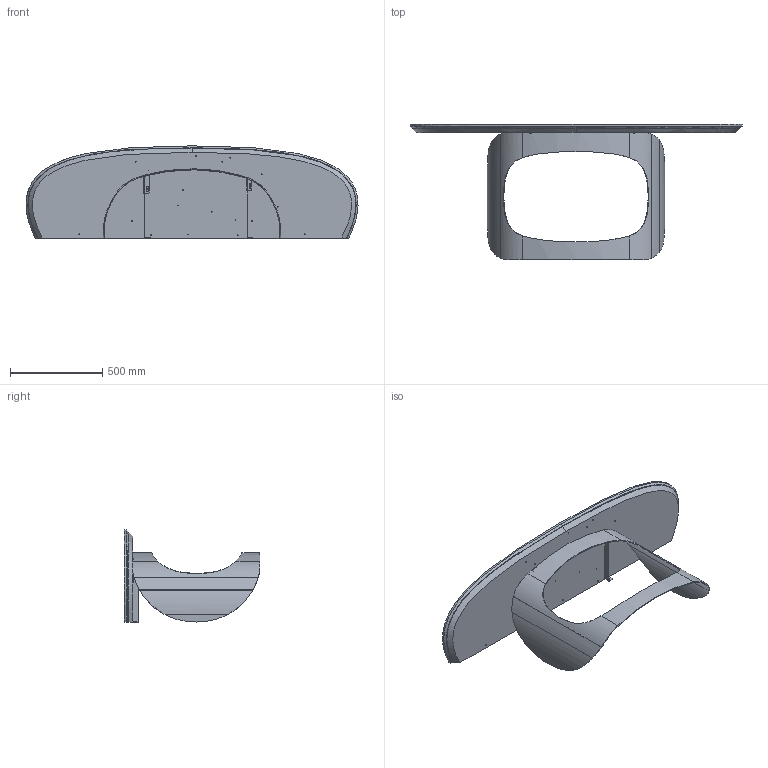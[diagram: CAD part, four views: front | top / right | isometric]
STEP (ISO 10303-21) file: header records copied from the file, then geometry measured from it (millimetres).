
FILE_DESCRIPTION (( 'STEP AP203' ), '1' );
FILE_NAME ('PO61M_Polifemo Console_180x50x73h_Marble Shaped.STEP', '2024-08-02T08:17:34', ( '' ), ( '' ), 'SwSTEP 2.0', 'SolidWorks 2022', '' );
FILE_SCHEMA (( 'CONFIG_CONTROL_DESIGN' ));
Length unit declared in the file: millimetre
Products named in the file (9): CONSOLLE POLIFEMO_BASE 02; CONSOLLE POLIFEMO_STAFFA SX ANCORAGGIO; KXXXX-00-piani MARMO Sasso per console_180X50; CONSOLLE POLIFEMO_STAFFA DX ANCORAGGIO; KXXXX-00-piani MARMO Sasso per console_180x50; POLC00000-00-POLIFEMO CONSOLLE CORPO CENTRALE METALLO GREZZO; PO61M_Polifemo Console_180x50x73h_Marble Shaped; POLCSTA01-00-POLIFEMO CONSOLLE STAFFE METALLO VERN.NERO DI FONDO; TRUXXXX-02-NOBILITATO Sasso per console_180x50
Assembly tree (9 placements, depth 3):
  PO61M_Polifemo Console_180x50x73h_Marble Shaped
    POLC00000-00-POLIFEMO CONSOLLE CORPO CENTRALE METALLO GREZZO
      CONSOLLE POLIFEMO_BASE 02
      CONSOLLE POLIFEMO_STAFFA DX ANCORAGGIO
      CONSOLLE POLIFEMO_STAFFA SX ANCORAGGIO
    POLCSTA01-00-POLIFEMO CONSOLLE STAFFE METALLO VERN.NERO DI FONDO  x2
    KXXXX-00-piani MARMO Sasso per console_180X50
      TRUXXXX-02-NOBILITATO Sasso per console_180x50
      KXXXX-00-piani MARMO Sasso per console_180x50
Bounding box: 1799.88 x 735 x 500.03 mm (x, y, z)
Volume: 37038753.6 mm3; surface area: 4430470.1 mm2
Topology: 7 solids, 7 shells, 289 faces, 735 edges, 456 vertices
Faces by surface type: cylinder 113, plane 84, bspline 52, cone 40
Entity records: 13417 total; most frequent: CARTESIAN_POINT 6664, ORIENTED_EDGE 1214, DIRECTION 1129, EDGE_CURVE 607, AXIS2_PLACEMENT_3D 407, VERTEX_POINT 376, LINE 315, VECTOR 315
